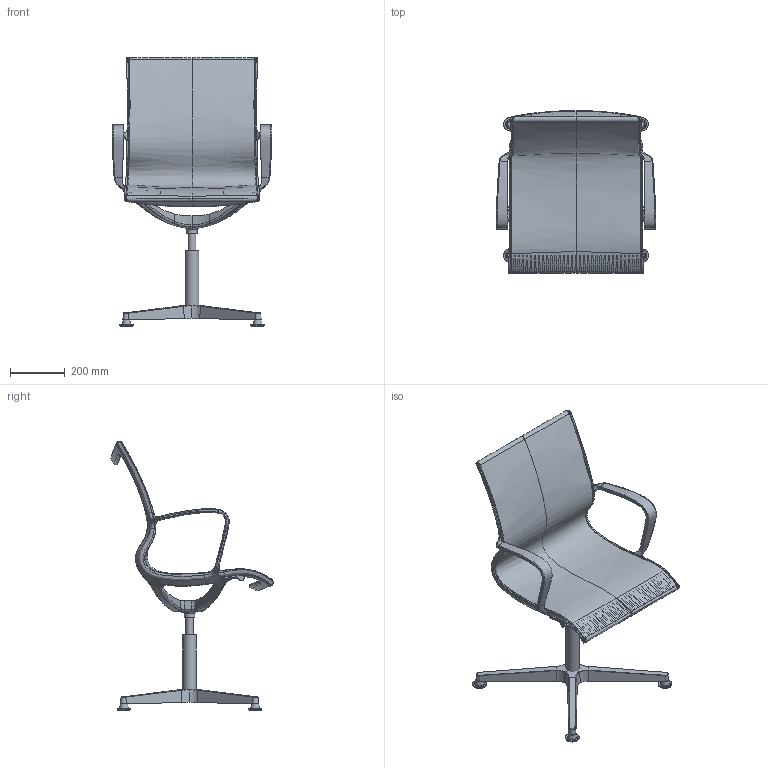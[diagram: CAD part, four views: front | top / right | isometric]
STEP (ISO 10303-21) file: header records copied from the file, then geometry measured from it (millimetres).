
FILE_DESCRIPTION(/* description */ (''),/* implementation_level */ '2;1');
FILE_NAME(/* name */ 'Everyday 760-F34',/* time_stamp */ '2019-05-20T14:52:36+02:00',/* author */ (''),/* organization */ (''),/* preprocessor_version */ 'ST-DEVELOPER v16.5',/* originating_system */ '',/* authorisation */ '');
FILE_SCHEMA (('AUTOMOTIVE_DESIGN'));
Length unit declared in the file: millimetre
Products named in the file (1): Document
Bounding box: 584 x 596.33 x 985.83 mm (x, y, z)
Volume: 13610.6 mm3; surface area: 1336129.2 mm2
Topology: 2 solids, 18 shells, 334 faces, 1221 edges, 813 vertices
Faces by surface type: bspline 279, plane 55
Entity records: 36146 total; most frequent: CARTESIAN_POINT 29878, ORIENTED_EDGE 2026, EDGE_CURVE 1214, VERTEX_POINT 807, B_SPLINE_CURVE_WITH_KNOTS 799, EDGE_LOOP 338, ADVANCED_FACE 334, FACE_OUTER_BOUND 334
